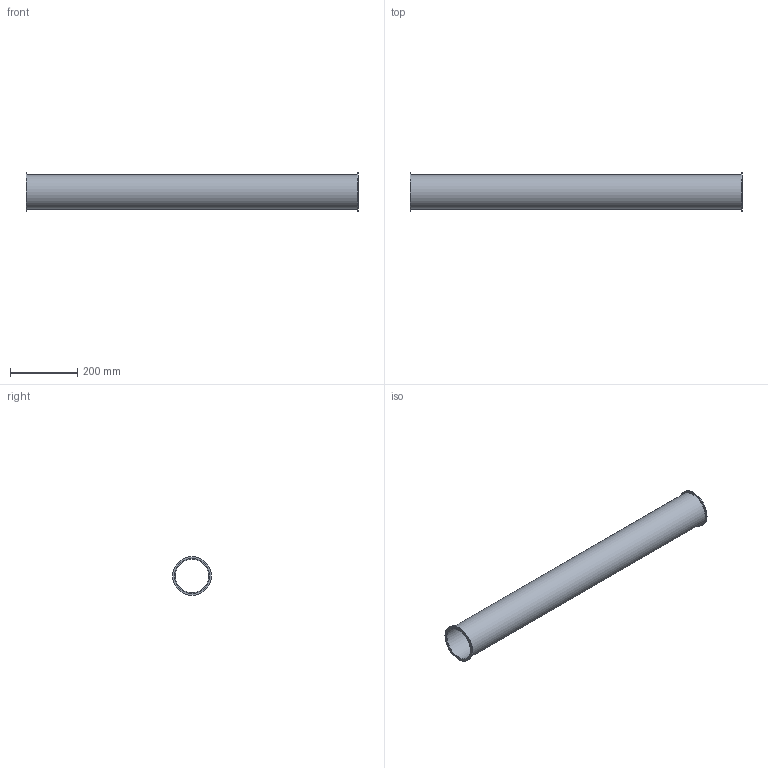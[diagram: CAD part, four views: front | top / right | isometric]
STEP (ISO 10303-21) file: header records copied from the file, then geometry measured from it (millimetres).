
FILE_DESCRIPTION((''),'2;1');
FILE_NAME('U:\Wolfgang\Marcel-3D\fertig\Kapitel 1\1021002.stp','2010-05-31T11:04:02',('TK2'),(''),'Autodesk Inventor 2010','Autodesk Inventor 2010','');
FILE_SCHEMA(('AUTOMOTIVE_DESIGN { 1 0 10303 214 1 1 1 1 }'));
Length unit declared in the file: millimetre
Products named in the file (1): 1021002
Bounding box: 986 x 115 x 115 mm (x, y, z)
Volume: 633935.7 mm3; surface area: 635355.7 mm2
Topology: 1 solids, 1 shells, 8 faces, 12 edges, 8 vertices
Faces by surface type: cylinder 4, plane 4
Full cylindrical faces by diameter (mm): 99 x1, 103 x1, 115 x2
Entity records: 194 total; most frequent: DIRECTION 34, CARTESIAN_POINT 25, AXIS2_PLACEMENT_3D 17, ORIENTED_EDGE 16, EDGE_LOOP 16, VERTEX_POINT 8, CIRCLE 8, EDGE_CURVE 8
